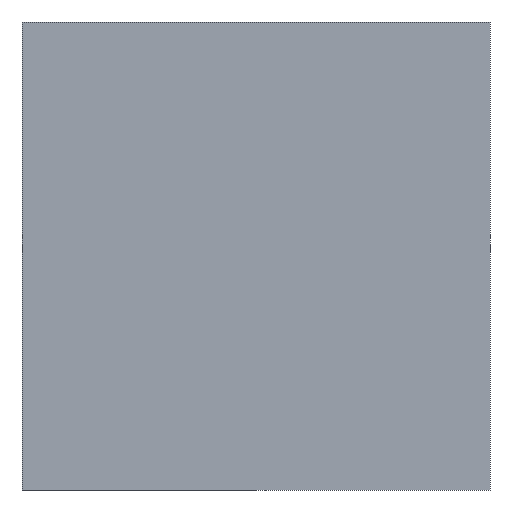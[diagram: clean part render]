
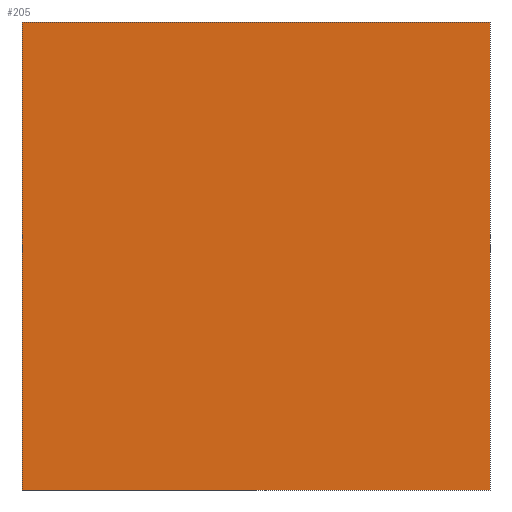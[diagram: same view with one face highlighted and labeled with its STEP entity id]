
A CAD part, left-side view. The second image highlights one B-rep face of the part: STEP entity #205.
In plain terms, the highlighted planar face has unit normal (-1, 0, 0).
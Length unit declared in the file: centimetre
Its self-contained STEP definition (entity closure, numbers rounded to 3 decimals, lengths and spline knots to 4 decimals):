
#20 = CARTESIAN_POINT ( 'NONE',  ( 0., 1000., 1000. ) ) ;
#27 = EDGE_LOOP ( 'NONE', ( #109, #483, #135, #429 ) ) ;
#29 = VECTOR ( 'NONE', #524, 100. ) ;
#33 = VERTEX_POINT ( 'NONE', #286 ) ;
#34 = LINE ( 'NONE', #289, #336 ) ;
#52 = CARTESIAN_POINT ( 'NONE',  ( 0., 1000., 0. ) ) ;
#53 = PLANE ( 'NONE',  #487 ) ;
#68 = CARTESIAN_POINT ( 'NONE',  ( 0., 0., 1000. ) ) ;
#95 = VECTOR ( 'NONE', #472, 100. ) ;
#109 = ORIENTED_EDGE ( 'NONE', *, *, #299, .T. ) ;
#123 = DIRECTION ( 'NONE',  ( 0., 0., -1. ) ) ;
#135 = ORIENTED_EDGE ( 'NONE', *, *, #392, .F. ) ;
#139 = CARTESIAN_POINT ( 'NONE',  ( 0., 0., 1000. ) ) ;
#161 = LINE ( 'NONE', #68, #361 ) ;
#163 = VERTEX_POINT ( 'NONE', #139 ) ;
#205 = ADVANCED_FACE ( 'NONE', ( #428 ), #53, .F. ) ;
#229 = VERTEX_POINT ( 'NONE', #315 ) ;
#238 = DIRECTION ( 'NONE',  ( 0., 0., -1. ) ) ;
#250 = CARTESIAN_POINT ( 'NONE',  ( 0., 1000., 1000. ) ) ;
#286 = CARTESIAN_POINT ( 'NONE',  ( 0., 0., 0. ) ) ;
#289 = CARTESIAN_POINT ( 'NONE',  ( 0., 1000., 1000. ) ) ;
#299 = EDGE_CURVE ( 'NONE', #485, #33, #317, .T. ) ;
#315 = CARTESIAN_POINT ( 'NONE',  ( 0., 1000., 1000. ) ) ;
#317 = LINE ( 'NONE', #52, #95 ) ;
#321 = DIRECTION ( 'NONE',  ( 1., 0., 0. ) ) ;
#327 = CARTESIAN_POINT ( 'NONE',  ( 0., 1000., 0. ) ) ;
#336 = VECTOR ( 'NONE', #448, 100. ) ;
#361 = VECTOR ( 'NONE', #123, 100. ) ;
#363 = LINE ( 'NONE', #20, #29 ) ;
#392 = EDGE_CURVE ( 'NONE', #229, #163, #34, .T. ) ;
#428 = FACE_OUTER_BOUND ( 'NONE', #27, .T. ) ;
#429 = ORIENTED_EDGE ( 'NONE', *, *, #527, .T. ) ;
#448 = DIRECTION ( 'NONE',  ( 0., -1., 0. ) ) ;
#472 = DIRECTION ( 'NONE',  ( 0., -1., 0. ) ) ;
#481 = EDGE_CURVE ( 'NONE', #163, #33, #161, .T. ) ;
#483 = ORIENTED_EDGE ( 'NONE', *, *, #481, .F. ) ;
#485 = VERTEX_POINT ( 'NONE', #327 ) ;
#487 = AXIS2_PLACEMENT_3D ( 'NONE', #250, #321, #238 ) ;
#524 = DIRECTION ( 'NONE',  ( 0., 0., -1. ) ) ;
#527 = EDGE_CURVE ( 'NONE', #229, #485, #363, .T. ) ;
